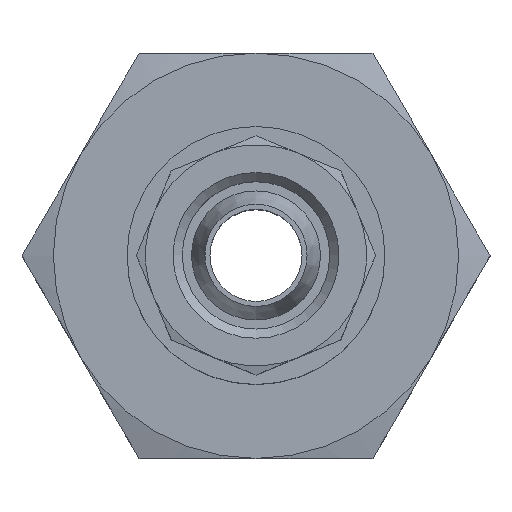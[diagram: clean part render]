
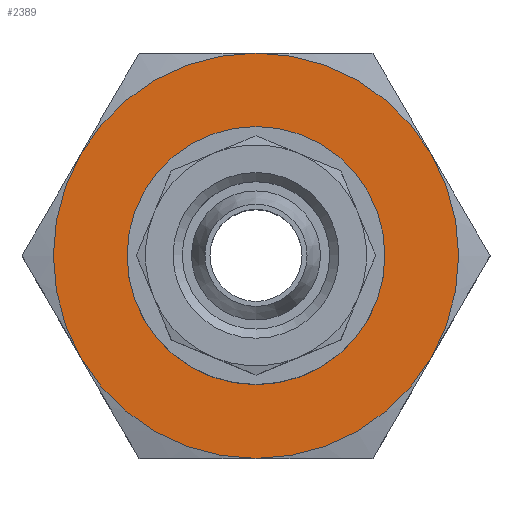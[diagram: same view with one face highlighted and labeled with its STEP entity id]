
A CAD part, top view. The second image highlights one B-rep face of the part: STEP entity #2389.
In plain terms, the highlighted planar face has unit normal (0, 0, 1) as drawn and (0, 1, 0) by its records, which use the part's own axes.
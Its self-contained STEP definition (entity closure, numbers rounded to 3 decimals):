
#1211=PLANE('',#2283);
#1389=ORIENTED_EDGE('',*,*,#1648,.T.);
#1390=ORIENTED_EDGE('',*,*,#1649,.T.);
#1391=ORIENTED_EDGE('',*,*,#1630,.T.);
#1392=ORIENTED_EDGE('',*,*,#1650,.T.);
#1393=ORIENTED_EDGE('',*,*,#1647,.F.);
#1394=ORIENTED_EDGE('',*,*,#1651,.T.);
#1395=ORIENTED_EDGE('',*,*,#1607,.F.);
#1457=CIRCLE('',#2226,5.25);
#1472=CIRCLE('',#2262,11.);
#1475=CIRCLE('',#2282,11.);
#1476=CIRCLE('',#2284,11.);
#1477=CIRCLE('',#2285,11.);
#1478=CIRCLE('',#2286,11.);
#1479=CIRCLE('',#2287,11.);
#1518=VERTEX_POINT('',#2521);
#1536=VERTEX_POINT('',#2570);
#1539=VERTEX_POINT('',#2579);
#1546=VERTEX_POINT('',#2600);
#1547=VERTEX_POINT('',#2605);
#1551=VERTEX_POINT('',#2617);
#1552=VERTEX_POINT('',#2618);
#1607=EDGE_CURVE('',#1518,#1518,#1457,.T.);
#1630=EDGE_CURVE('',#1536,#1539,#1472,.T.);
#1647=EDGE_CURVE('',#1547,#1546,#1475,.T.);
#1648=EDGE_CURVE('',#1551,#1552,#1476,.T.);
#1649=EDGE_CURVE('',#1552,#1536,#1477,.T.);
#1650=EDGE_CURVE('',#1539,#1546,#1478,.T.);
#1651=EDGE_CURVE('',#1547,#1551,#1479,.T.);
#1736=EDGE_LOOP('',(#1389,#1390,#1391,#1392,#1393,#1394));
#1737=EDGE_LOOP('',(#1395));
#1824=FACE_BOUND('',#1736,.T.);
#1825=FACE_BOUND('',#1737,.T.);
#1985=DIRECTION('',(0.,1.,0.));
#1986=DIRECTION('',(0.,0.,-5.25));
#2059=DIRECTION('',(0.,1.,0.));
#2060=DIRECTION('',(0.,0.,-11.));
#2102=DIRECTION('',(0.,-1.,0.));
#2103=DIRECTION('',(0.,0.,11.));
#2104=DIRECTION('',(0.,1.,0.));
#2105=DIRECTION('',(1.,0.,0.));
#2106=DIRECTION('',(0.,1.,0.));
#2107=DIRECTION('',(9.526,0.,5.5));
#2108=DIRECTION('',(0.,1.,0.));
#2109=DIRECTION('',(9.526,0.,-5.5));
#2110=DIRECTION('',(0.,1.,0.));
#2111=DIRECTION('',(-9.526,0.,-5.5));
#2112=DIRECTION('',(0.,1.,0.));
#2113=DIRECTION('',(0.,0.,11.));
#2226=AXIS2_PLACEMENT_3D('',#2522,#1985,#1986);
#2262=AXIS2_PLACEMENT_3D('',#2581,#2059,#2060);
#2282=AXIS2_PLACEMENT_3D('',#2615,#2102,#2103);
#2283=AXIS2_PLACEMENT_3D('',#2616,#2104,#2105);
#2284=AXIS2_PLACEMENT_3D('',#2619,#2106,#2107);
#2285=AXIS2_PLACEMENT_3D('',#2620,#2108,#2109);
#2286=AXIS2_PLACEMENT_3D('',#2621,#2110,#2111);
#2287=AXIS2_PLACEMENT_3D('',#2622,#2112,#2113);
#2389=ADVANCED_FACE('',(#1824,#1825),#1211,.T.);
#2521=CARTESIAN_POINT('',(23.988,29.497,-5.25));
#2522=CARTESIAN_POINT('',(23.988,29.497,0.));
#2570=CARTESIAN_POINT('',(23.988,29.497,-11.));
#2579=CARTESIAN_POINT('',(14.462,29.497,-5.5));
#2581=CARTESIAN_POINT('',(23.988,29.497,0.));
#2600=CARTESIAN_POINT('',(14.462,29.497,5.5));
#2605=CARTESIAN_POINT('',(23.988,29.497,11.));
#2615=CARTESIAN_POINT('',(23.988,29.497,0.));
#2616=CARTESIAN_POINT('',(23.988,29.497,11.));
#2617=CARTESIAN_POINT('',(33.514,29.497,5.5));
#2618=CARTESIAN_POINT('',(33.514,29.497,-5.5));
#2619=CARTESIAN_POINT('',(23.988,29.497,0.));
#2620=CARTESIAN_POINT('',(23.988,29.497,0.));
#2621=CARTESIAN_POINT('',(23.988,29.497,0.));
#2622=CARTESIAN_POINT('',(23.988,29.497,0.));
